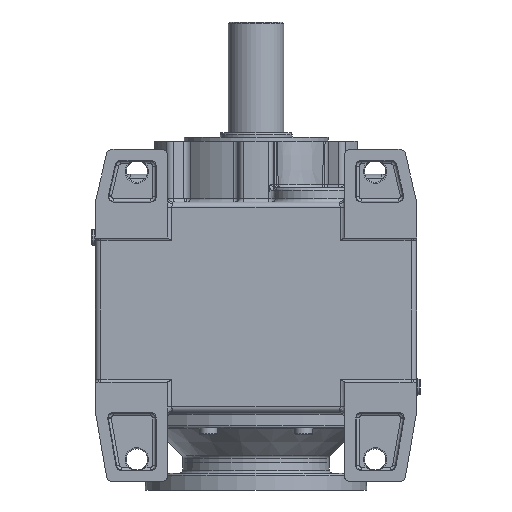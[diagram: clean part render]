
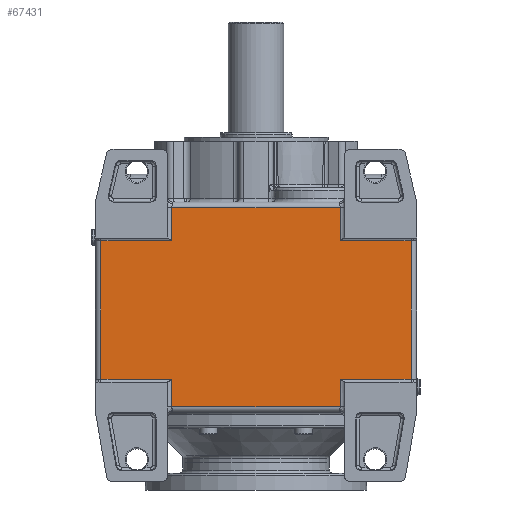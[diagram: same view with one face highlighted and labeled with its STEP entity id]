
A CAD part, front view. The second image highlights one B-rep face of the part: STEP entity #67431.
In plain terms, the highlighted planar face has unit normal (0, -1, 0).
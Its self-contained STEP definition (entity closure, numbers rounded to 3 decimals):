
#50615 = CARTESIAN_POINT ( 'NONE',  ( -76., -178., -240. ) ) ;
#50616 = DIRECTION ( 'NONE',  ( 0., 0., -1. ) ) ;
#50617 = VECTOR ( 'NONE', #50616, 1000. ) ;
#50618 = CARTESIAN_POINT ( 'NONE',  ( -76., -178., -240. ) ) ;
#50619 = LINE ( 'NONE', #50618, #50617 ) ;
#50620 = CARTESIAN_POINT ( 'NONE',  ( -76., -178., -215.051 ) ) ;
#50621 = DIRECTION ( 'NONE',  ( 1., 0., 0. ) ) ;
#50622 = VECTOR ( 'NONE', #50621, 1000. ) ;
#50623 = CARTESIAN_POINT ( 'NONE',  ( -80., -178., -215.051 ) ) ;
#50624 = LINE ( 'NONE', #50623, #50622 ) ;
#50625 = CARTESIAN_POINT ( 'NONE',  ( -140., -178., -215.051 ) ) ;
#50708 = CARTESIAN_POINT ( 'NONE',  ( -140., -178., -245. ) ) ;
#50709 = LINE ( 'NONE', #50708, #50746 ) ;
#50727 = DIRECTION ( 'NONE',  ( 0., 0., -1. ) ) ;
#50746 = VECTOR ( 'NONE', #50727, 1000. ) ;
#51104 = DIRECTION ( 'NONE',  ( 0., 0., 1. ) ) ;
#51105 = VECTOR ( 'NONE', #51104, 1000. ) ;
#51106 = CARTESIAN_POINT ( 'NONE',  ( 140., -178., -245. ) ) ;
#51107 = LINE ( 'NONE', #51106, #51105 ) ;
#51108 = CARTESIAN_POINT ( 'NONE',  ( 140., -178., -215.051 ) ) ;
#51109 = DIRECTION ( 'NONE',  ( 1., 0., 0. ) ) ;
#51110 = VECTOR ( 'NONE', #51109, 1000. ) ;
#51111 = CARTESIAN_POINT ( 'NONE',  ( 140., -178., -215.051 ) ) ;
#51112 = LINE ( 'NONE', #51111, #51110 ) ;
#51113 = CARTESIAN_POINT ( 'NONE',  ( 76., -178., -215.051 ) ) ;
#51114 = DIRECTION ( 'NONE',  ( 0., 0., 1. ) ) ;
#51115 = VECTOR ( 'NONE', #51114, 1000. ) ;
#51116 = CARTESIAN_POINT ( 'NONE',  ( 76., -178., -215.051 ) ) ;
#51117 = CARTESIAN_POINT ( 'NONE',  ( 76., -178., -240. ) ) ;
#51118 = DIRECTION ( 'NONE',  ( 1., 0., 0. ) ) ;
#51119 = VECTOR ( 'NONE', #51118, 1000. ) ;
#51120 = CARTESIAN_POINT ( 'NONE',  ( 145., -178., -240. ) ) ;
#51121 = LINE ( 'NONE', #51120, #51119 ) ;
#51122 = LINE ( 'NONE', #51116, #51115 ) ;
#53088 = DIRECTION ( 'NONE',  ( 0., 0., -1. ) ) ;
#53089 = VECTOR ( 'NONE', #53088, 1000. ) ;
#53090 = CARTESIAN_POINT ( 'NONE',  ( -76., -178., -89.949 ) ) ;
#53091 = LINE ( 'NONE', #53090, #53089 ) ;
#53302 = CARTESIAN_POINT ( 'NONE',  ( 76., -178., -60. ) ) ;
#53303 = DIRECTION ( 'NONE',  ( 0., 0., 1. ) ) ;
#53304 = VECTOR ( 'NONE', #53303, 1000. ) ;
#53305 = CARTESIAN_POINT ( 'NONE',  ( 76., -178., -60. ) ) ;
#53306 = LINE ( 'NONE', #53305, #53304 ) ;
#53307 = DIRECTION ( 'NONE',  ( -1., 0., 0. ) ) ;
#53308 = VECTOR ( 'NONE', #53307, 1000. ) ;
#53309 = CARTESIAN_POINT ( 'NONE',  ( 80., -178., -89.949 ) ) ;
#53310 = LINE ( 'NONE', #53309, #53308 ) ;
#53362 = CARTESIAN_POINT ( 'NONE',  ( 140., -178., -89.949 ) ) ;
#53363 = CARTESIAN_POINT ( 'NONE',  ( -76., -178., -60. ) ) ;
#53364 = DIRECTION ( 'NONE',  ( -1., 0., 0. ) ) ;
#53365 = VECTOR ( 'NONE', #53364, 1000. ) ;
#53366 = CARTESIAN_POINT ( 'NONE',  ( -140., -178., -60. ) ) ;
#53367 = LINE ( 'NONE', #53366, #53365 ) ;
#53426 = CARTESIAN_POINT ( 'NONE',  ( -140., -178., -89.949 ) ) ;
#53427 = DIRECTION ( 'NONE',  ( -1., 0., 0. ) ) ;
#53428 = VECTOR ( 'NONE', #53427, 1000. ) ;
#53429 = CARTESIAN_POINT ( 'NONE',  ( -140., -178., -89.949 ) ) ;
#53430 = LINE ( 'NONE', #53429, #53428 ) ;
#53431 = CARTESIAN_POINT ( 'NONE',  ( -76., -178., -89.949 ) ) ;
#53446 = DIRECTION ( 'NONE',  ( 1., 0., 0. ) ) ;
#53447 = DIRECTION ( 'NONE',  ( 0., -1., 0. ) ) ;
#53448 = CARTESIAN_POINT ( 'NONE',  ( -145., -178., -245. ) ) ;
#53449 = AXIS2_PLACEMENT_3D ( 'NONE', #53448, #53447, #53446 ) ;
#53450 = PLANE ( 'NONE',  #53449 ) ;
#53451 = FACE_OUTER_BOUND ( 'NONE', #67359, .T. ) ;
#53452 = CARTESIAN_POINT ( 'NONE',  ( 76., -178., -89.949 ) ) ;
#66543 = VERTEX_POINT ( 'NONE', #50625 ) ;
#66544 = ORIENTED_EDGE ( 'NONE', *, *, #66545, .T. ) ;
#66545 = EDGE_CURVE ( 'NONE', #66543, #66546, #50624, .T. ) ;
#66546 = VERTEX_POINT ( 'NONE', #50620 ) ;
#66547 = ORIENTED_EDGE ( 'NONE', *, *, #66548, .T. ) ;
#66548 = EDGE_CURVE ( 'NONE', #66546, #66549, #50619, .T. ) ;
#66549 = VERTEX_POINT ( 'NONE', #50615 ) ;
#66615 = ORIENTED_EDGE ( 'NONE', *, *, #66616, .T. ) ;
#66616 = EDGE_CURVE ( 'NONE', #66549, #66617, #51121, .T. ) ;
#66617 = VERTEX_POINT ( 'NONE', #51117 ) ;
#66618 = ORIENTED_EDGE ( 'NONE', *, *, #66619, .T. ) ;
#66619 = EDGE_CURVE ( 'NONE', #66617, #66620, #51122, .T. ) ;
#66620 = VERTEX_POINT ( 'NONE', #51113 ) ;
#66621 = ORIENTED_EDGE ( 'NONE', *, *, #66622, .T. ) ;
#66622 = EDGE_CURVE ( 'NONE', #66620, #66623, #51112, .T. ) ;
#66623 = VERTEX_POINT ( 'NONE', #51108 ) ;
#66624 = ORIENTED_EDGE ( 'NONE', *, *, #66625, .T. ) ;
#66625 = EDGE_CURVE ( 'NONE', #66623, #67382, #51107, .T. ) ;
#66626 = ORIENTED_EDGE ( 'NONE', *, *, #66627, .T. ) ;
#66627 = EDGE_CURVE ( 'NONE', #67420, #66543, #50709, .T. ) ;
#67254 = EDGE_CURVE ( 'NONE', #67379, #67417, #53091, .T. ) ;
#67358 = EDGE_CURVE ( 'NONE', #67382, #67429, #53310, .T. ) ;
#67359 = EDGE_LOOP ( 'NONE', ( #67383, #67430, #67377, #67380, #67418, #66626, #66544, #66547, #66615, #66618, #66621, #66624 ) ) ;
#67369 = EDGE_CURVE ( 'NONE', #67429, #67370, #53306, .T. ) ;
#67370 = VERTEX_POINT ( 'NONE', #53302 ) ;
#67377 = ORIENTED_EDGE ( 'NONE', *, *, #67378, .T. ) ;
#67378 = EDGE_CURVE ( 'NONE', #67370, #67379, #53367, .T. ) ;
#67379 = VERTEX_POINT ( 'NONE', #53363 ) ;
#67380 = ORIENTED_EDGE ( 'NONE', *, *, #67254, .T. ) ;
#67382 = VERTEX_POINT ( 'NONE', #53362 ) ;
#67383 = ORIENTED_EDGE ( 'NONE', *, *, #67358, .T. ) ;
#67417 = VERTEX_POINT ( 'NONE', #53431 ) ;
#67418 = ORIENTED_EDGE ( 'NONE', *, *, #67419, .T. ) ;
#67419 = EDGE_CURVE ( 'NONE', #67417, #67420, #53430, .T. ) ;
#67420 = VERTEX_POINT ( 'NONE', #53426 ) ;
#67429 = VERTEX_POINT ( 'NONE', #53452 ) ;
#67430 = ORIENTED_EDGE ( 'NONE', *, *, #67369, .T. ) ;
#67431 = ADVANCED_FACE ( 'NONE', ( #53451 ), #53450, .T. ) ;
